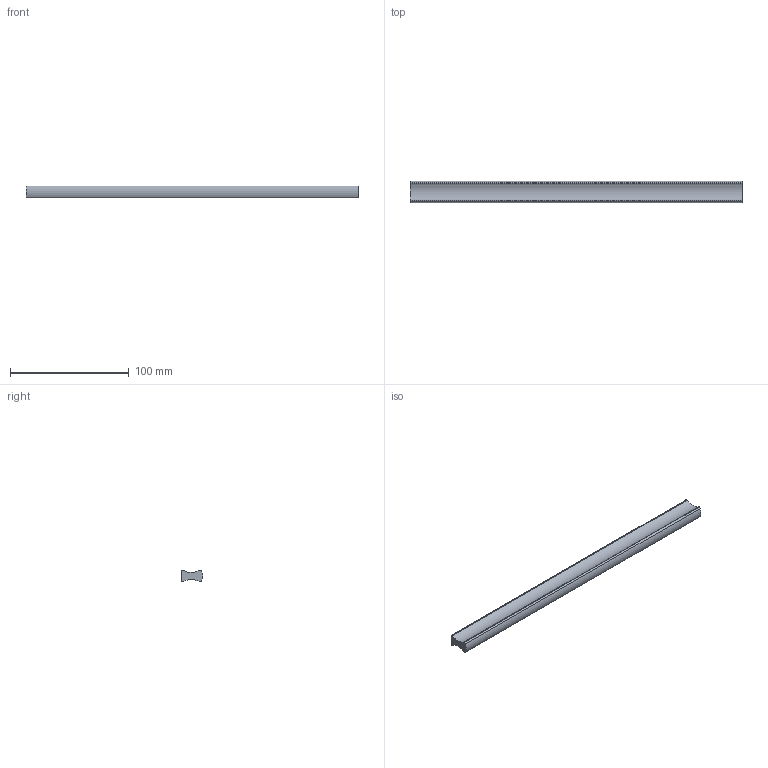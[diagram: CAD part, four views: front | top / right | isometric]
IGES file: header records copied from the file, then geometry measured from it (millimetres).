
Start section: Data from Parasolid IGES Translator 15.0.47, Copyright(c) 2006 Siemens P LM Software. All Rights Reserved.
Global section: file name: 9190439.igs; native system:  By UGS Corp.; preprocessor: XPlus GENERIC/IGES 3.0; author: Noname; organization: Noname; date: 20151216.182302; units: millimetre
Bounding box: 280 x 17.96 x 10 mm (x, y, z)
Surface area: 15792.1 mm2 (no closed solid volume)
Topology: 0 solids, 0 shells, 21 faces, 90 edges, 84 vertices
Faces by surface type: revolution 14, extrusion 7
